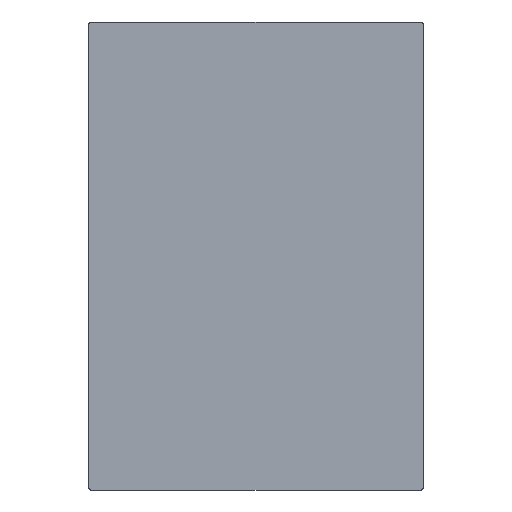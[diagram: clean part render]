
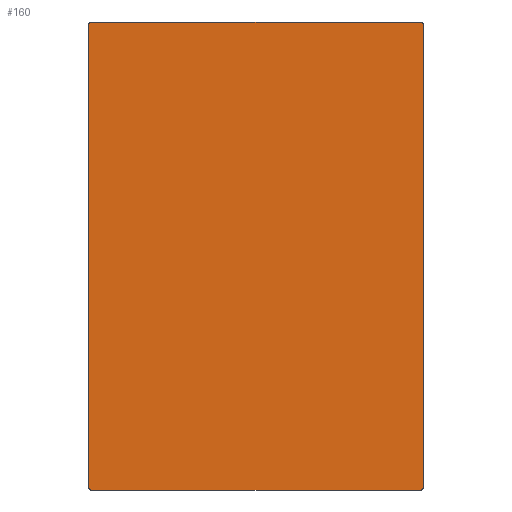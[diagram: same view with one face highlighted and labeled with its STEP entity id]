
A CAD part, front view. The second image highlights one B-rep face of the part: STEP entity #160.
In plain terms, the highlighted planar face has unit normal (0, -1, 0).
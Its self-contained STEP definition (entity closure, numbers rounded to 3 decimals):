
#1=CARTESIAN_POINT('',(497.,0.,-697.));
#2=DIRECTION('',(0.,-1.,0.));
#3=DIRECTION('',(0.,0.,-1.));
#4=AXIS2_PLACEMENT_3D('',#1,#2,#3);
#6=DIRECTION('',(-1.,0.,0.));
#7=VECTOR('',#6,494.);
#8=CARTESIAN_POINT('',(497.,0.,-700.));
#9=LINE('',#8,#7);
#10=CARTESIAN_POINT('',(3.,0.,-697.));
#11=DIRECTION('',(0.,-1.,0.));
#12=DIRECTION('',(-1.,0.,0.));
#13=AXIS2_PLACEMENT_3D('',#10,#11,#12);
#15=DIRECTION('',(0.,0.,1.));
#16=VECTOR('',#15,694.);
#17=CARTESIAN_POINT('',(0.,0.,-697.));
#18=LINE('',#17,#16);
#19=CARTESIAN_POINT('',(3.,0.,-3.));
#20=DIRECTION('',(0.,-1.,0.));
#21=DIRECTION('',(0.,0.,1.));
#22=AXIS2_PLACEMENT_3D('',#19,#20,#21);
#24=DIRECTION('',(1.,0.,0.));
#25=VECTOR('',#24,494.);
#26=CARTESIAN_POINT('',(3.,0.,0.));
#27=LINE('',#26,#25);
#28=CARTESIAN_POINT('',(497.,0.,-3.));
#29=DIRECTION('',(0.,-1.,0.));
#30=DIRECTION('',(1.,0.,0.));
#31=AXIS2_PLACEMENT_3D('',#28,#29,#30);
#33=DIRECTION('',(0.,0.,-1.));
#34=VECTOR('',#33,694.);
#35=CARTESIAN_POINT('',(500.,0.,-3.));
#36=LINE('',#35,#34);
#105=CARTESIAN_POINT('',(497.,0.,-700.));
#106=CARTESIAN_POINT('',(500.,0.,-697.));
#107=VERTEX_POINT('',#105);
#108=VERTEX_POINT('',#106);
#113=CARTESIAN_POINT('',(0.,0.,-697.));
#114=CARTESIAN_POINT('',(3.,0.,-700.));
#115=VERTEX_POINT('',#113);
#116=VERTEX_POINT('',#114);
#121=CARTESIAN_POINT('',(3.,0.,0.));
#122=CARTESIAN_POINT('',(0.,0.,-3.));
#123=VERTEX_POINT('',#121);
#124=VERTEX_POINT('',#122);
#129=CARTESIAN_POINT('',(500.,0.,-3.));
#130=CARTESIAN_POINT('',(497.,0.,0.));
#131=VERTEX_POINT('',#129);
#132=VERTEX_POINT('',#130);
#137=CARTESIAN_POINT('',(0.,0.,0.));
#138=DIRECTION('',(0.,1.,0.));
#139=DIRECTION('',(1.,0.,0.));
#140=AXIS2_PLACEMENT_3D('',#137,#138,#139);
#141=PLANE('',#140);
#143=ORIENTED_EDGE('',*,*,#142,.F.);
#145=ORIENTED_EDGE('',*,*,#144,.T.);
#147=ORIENTED_EDGE('',*,*,#146,.F.);
#149=ORIENTED_EDGE('',*,*,#148,.T.);
#151=ORIENTED_EDGE('',*,*,#150,.F.);
#153=ORIENTED_EDGE('',*,*,#152,.T.);
#155=ORIENTED_EDGE('',*,*,#154,.F.);
#157=ORIENTED_EDGE('',*,*,#156,.T.);
#158=EDGE_LOOP('',(#143,#145,#147,#149,#151,#153,#155,#157));
#159=FACE_OUTER_BOUND('',#158,.F.);
#160=ADVANCED_FACE('',(#159),#141,.F.);
#5=CIRCLE('',#4,3.);
#14=CIRCLE('',#13,3.);
#23=CIRCLE('',#22,3.);
#32=CIRCLE('',#31,3.);
#142=EDGE_CURVE('',#107,#108,#5,.T.);
#144=EDGE_CURVE('',#107,#116,#9,.T.);
#146=EDGE_CURVE('',#115,#116,#14,.T.);
#148=EDGE_CURVE('',#115,#124,#18,.T.);
#150=EDGE_CURVE('',#123,#124,#23,.T.);
#152=EDGE_CURVE('',#123,#132,#27,.T.);
#154=EDGE_CURVE('',#131,#132,#32,.T.);
#156=EDGE_CURVE('',#131,#108,#36,.T.);
